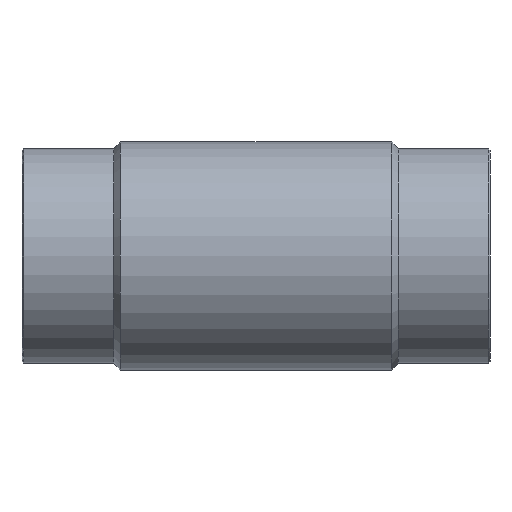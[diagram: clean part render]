
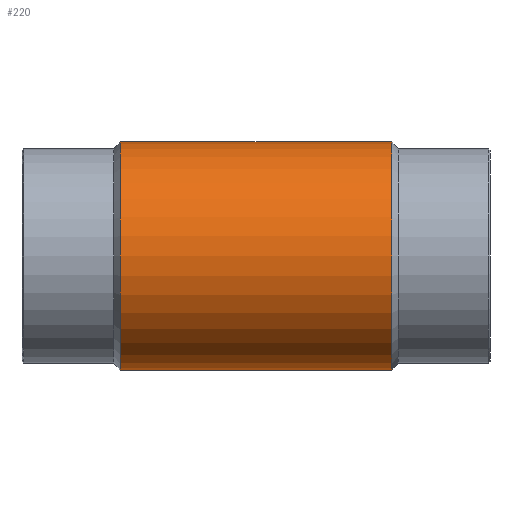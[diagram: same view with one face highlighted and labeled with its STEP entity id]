
A CAD part, front view. The second image highlights one B-rep face of the part: STEP entity #220.
In plain terms, the highlighted cylindrical face has radius 298 mm (diameter 596 mm), a full revolution.
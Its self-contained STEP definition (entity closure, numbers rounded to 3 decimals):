
#34=CIRCLE('',#251,298.);
#40=CIRCLE('',#262,298.);
#62=ORIENTED_EDGE('',*,*,#100,.T.);
#63=ORIENTED_EDGE('',*,*,#101,.T.);
#64=ORIENTED_EDGE('',*,*,#93,.F.);
#65=ORIENTED_EDGE('',*,*,#99,.T.);
#93=EDGE_CURVE('',#114,#114,#34,.T.);
#99=EDGE_CURVE('',#120,#120,#40,.T.);
#100=EDGE_CURVE('',#121,#122,#130,.F.);
#101=EDGE_CURVE('',#122,#121,#131,.T.);
#114=VERTEX_POINT('',#371);
#120=VERTEX_POINT('',#388);
#121=VERTEX_POINT('',#391);
#122=VERTEX_POINT('',#392);
#130=ELLIPSE('',#264,432.172,298.);
#131=ELLIPSE('',#265,432.172,298.);
#149=EDGE_LOOP('',(#62,#63));
#150=EDGE_LOOP('',(#64));
#151=EDGE_LOOP('',(#65));
#185=FACE_BOUND('',#149,.T.);
#186=FACE_BOUND('',#150,.T.);
#187=FACE_BOUND('',#151,.T.);
#209=CYLINDRICAL_SURFACE('',#263,298.);
#220=ADVANCED_FACE('',(#185,#186,#187),#209,.T.);
#251=AXIS2_PLACEMENT_3D('',#370,#297,#298);
#262=AXIS2_PLACEMENT_3D('',#387,#319,#320);
#263=AXIS2_PLACEMENT_3D('',#389,#321,#322);
#264=AXIS2_PLACEMENT_3D('',#390,#323,#324);
#265=AXIS2_PLACEMENT_3D('',#393,#325,#326);
#297=DIRECTION('',(-1.,0.,0.));
#298=DIRECTION('',(0.,0.,1.));
#319=DIRECTION('',(-1.,0.,0.));
#320=DIRECTION('',(0.,0.,1.));
#321=DIRECTION('',(-1.,0.,0.));
#322=DIRECTION('',(0.,0.,1.));
#323=DIRECTION('',(0.69,0.724,0.));
#324=DIRECTION('',(-0.724,0.69,0.));
#325=DIRECTION('',(0.69,-0.724,0.));
#326=DIRECTION('',(-0.724,-0.69,0.));
#370=CARTESIAN_POINT('',(-355.,0.,0.));
#371=CARTESIAN_POINT('',(-355.,0.,298.));
#387=CARTESIAN_POINT('',(355.,0.,0.));
#388=CARTESIAN_POINT('',(355.,0.,298.));
#389=CARTESIAN_POINT('',(-60.,0.,0.));
#390=CARTESIAN_POINT('',(0.,0.,0.));
#391=CARTESIAN_POINT('',(0.,0.,298.));
#392=CARTESIAN_POINT('',(0.,0.,-298.));
#393=CARTESIAN_POINT('',(0.,0.,0.));
